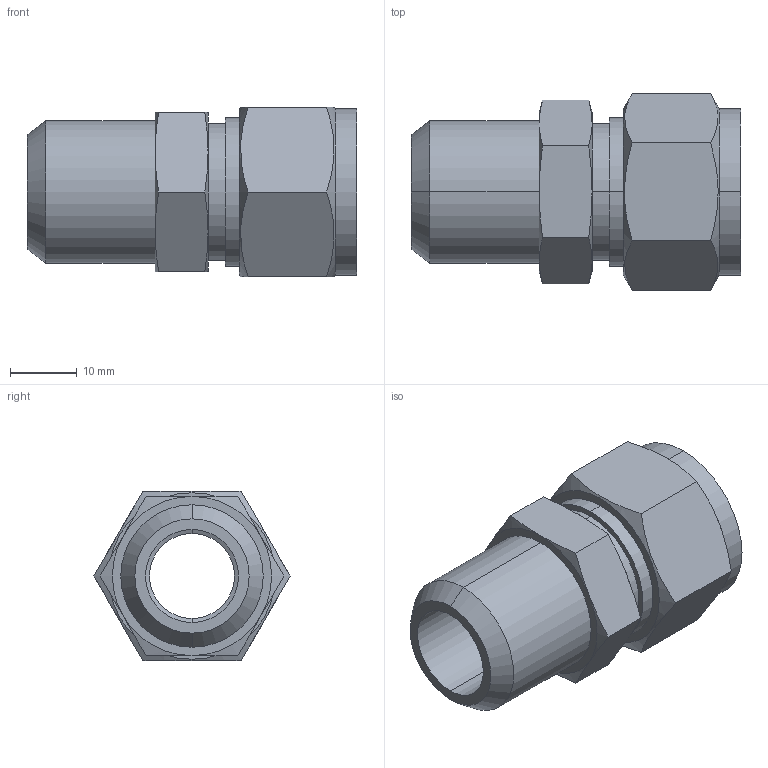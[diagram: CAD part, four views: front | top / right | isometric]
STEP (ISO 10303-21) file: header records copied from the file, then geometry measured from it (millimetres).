
FILE_DESCRIPTION (( 'STEP AP203' ), '1' );
FILE_NAME ('DCB10-08 SS.STEP', '2009-09-08T04:47:39', ( ' ' ), ( '' ), 'SwSTEP 2.0', 'SolidWorks 2008', '' );
FILE_SCHEMA (( 'CONFIG_CONTROL_DESIGN' ));
Length unit declared in the file: millimetre
Products named in the file (1): DCB10-08 SS
Bounding box: 49.2 x 29.33 x 25.4 mm (x, y, z)
Volume: 13240.9 mm3; surface area: 7004.4 mm2
Topology: 1 solids, 1 shells, 53 faces, 118 edges, 72 vertices
Faces by surface type: cone 20, plane 19, cylinder 14
Entity records: 1713 total; most frequent: CARTESIAN_POINT 500, ORIENTED_EDGE 236, DIRECTION 230, EDGE_CURVE 118, AXIS2_PLACEMENT_3D 98, VERTEX_POINT 72, EDGE_LOOP 60, ADVANCED_FACE 53
